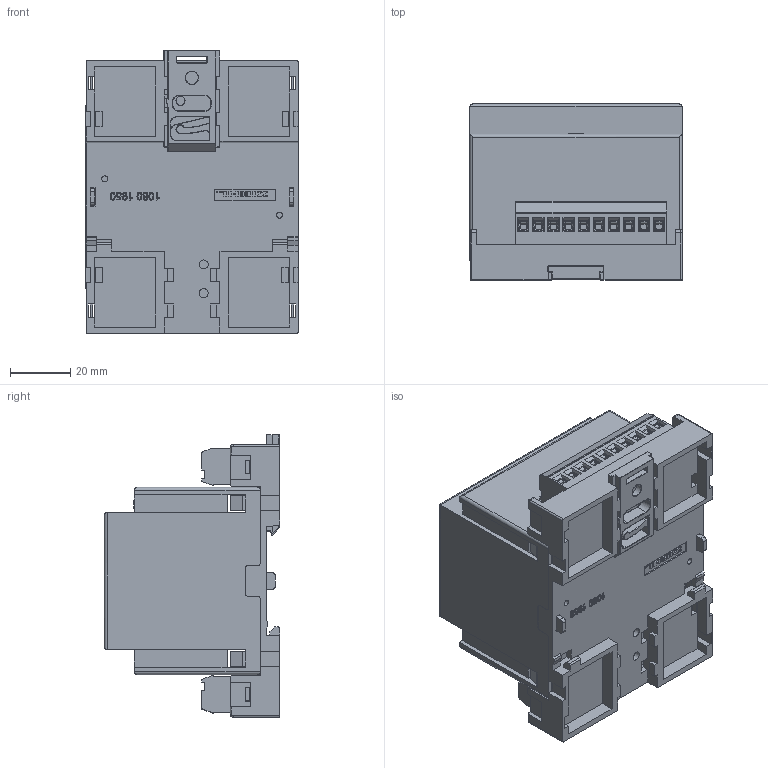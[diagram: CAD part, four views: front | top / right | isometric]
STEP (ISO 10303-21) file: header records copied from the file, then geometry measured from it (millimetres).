
FILE_DESCRIPTION (( 'STEP AP214' ), '1' );
FILE_NAME ('12350-1900-00_3D.STEP', '2014-10-23T11:22:56', ( '' ), ( '' ), 'SwSTEP 2.0', 'SolidWorks 2014', '' );
FILE_SCHEMA (( 'AUTOMOTIVE_DESIGN' ));
Length unit declared in the file: millimetre
Products named in the file (10): V4_Leiterplatte; 1080 1990.5_V-Riegel_3D; 1080 1950.4_3D_V4_UT; 12350-1900-00_3D; 31137103; 31137106; 12350-1200-00_3D; 31137110; V4_Frontplatte; 1080 1960.3_3D_V4_OT
Assembly tree (9 placements, depth 2):
  12350-1900-00_3D
    1080 1950.4_3D_V4_UT
    1080 1990.5_V-Riegel_3D
    V4_Leiterplatte
    1080 1960.3_3D_V4_OT
    V4_Frontplatte
    31137110
    12350-1200-00_3D
    31137106
    31137103
Bounding box: 70.5 x 58.3 x 93.79 mm (x, y, z)
Volume: 69953 mm3; surface area: 86900.3 mm2
Topology: 256 solids, 256 shells, 5323 faces, 14056 edges, 9265 vertices
Faces by surface type: plane 3883, bspline 640, cylinder 572, cone 152, torus 58, sphere 18
Full cylindrical faces by diameter (mm): 0.75 x2, 1.5 x23, 1.8 x4, 2 x21, 2.25 x19, 2.4 x19, 2.7 x19, 2.8 x1, 3 x42, 3.5 x4, 3.658 x2, 3.9 x19, 4.2 x1, 4.5 x2, 6 x2
Entity records: 193361 total; most frequent: CARTESIAN_POINT 57676, ORIENTED_EDGE 26932, DIRECTION 22898, EDGE_CURVE 13466, LINE 10088, VECTOR 10088, VERTEX_POINT 9028, AXIS2_PLACEMENT_3D 6405
